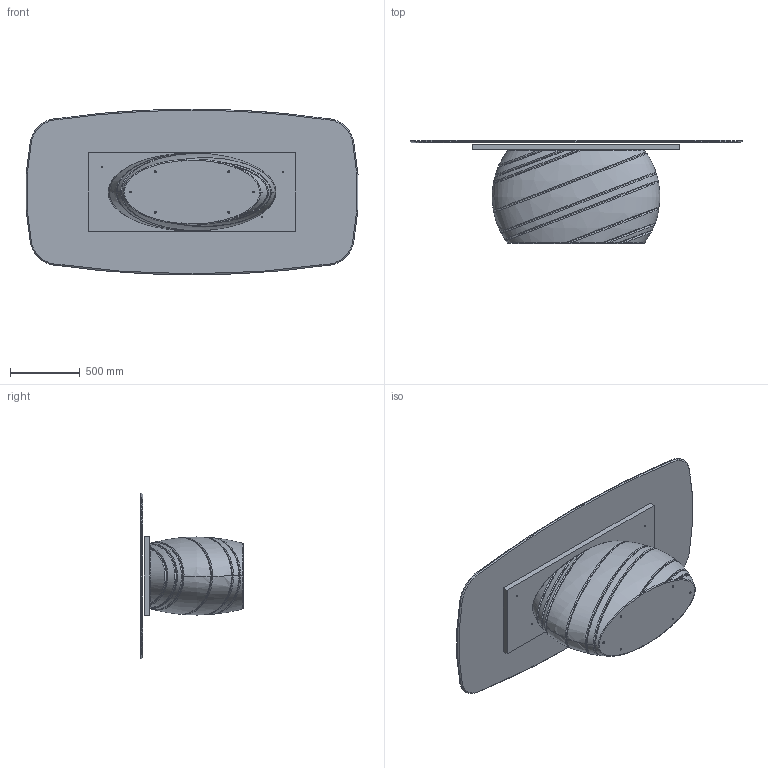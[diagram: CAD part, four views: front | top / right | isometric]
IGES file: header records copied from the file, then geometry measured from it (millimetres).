
Start section: SolidWorks IGES file using analytic representation for surfaces
Global section: file name: Y:\eforma\TECNICO\SOLIDWORKS\E-FORMA\1-TAVOLI\GIOVE\08 modelli 3D web\cer 239x119 sag.IGS; native system: SolidWorks 2022; preprocessor: SolidWorks 2022; author: eforma.tech; date: 250526.160204; units: millimetre
Bounding box: 2382.15 x 738 x 1190 mm (x, y, z)
Volume: 391845148.1 mm3; surface area: 9929948.4 mm2
Topology: 3 solids, 3 shells, 170 faces, 415 edges, 266 vertices
Faces by surface type: revolution 86, bspline 53, plane 31
